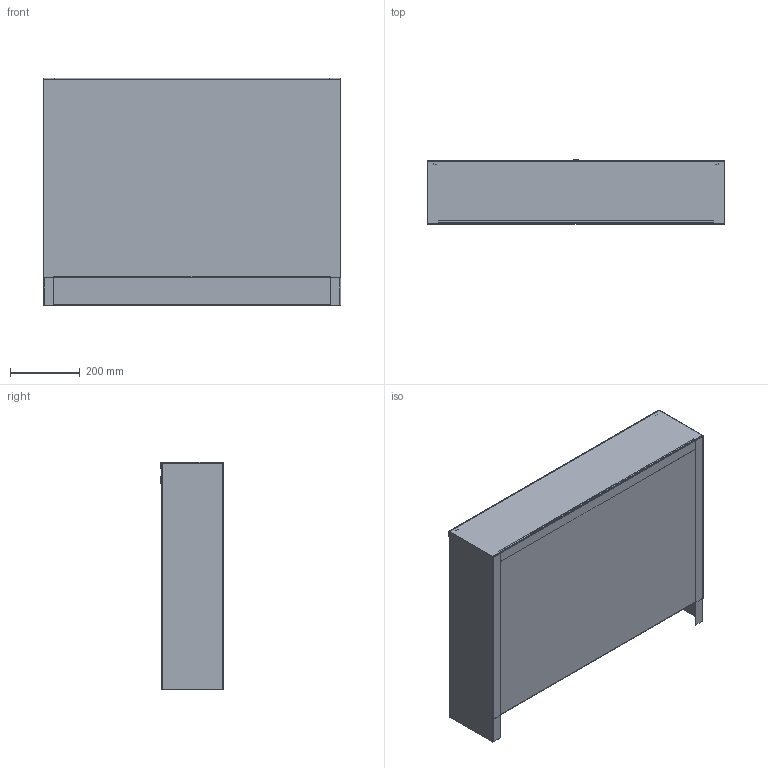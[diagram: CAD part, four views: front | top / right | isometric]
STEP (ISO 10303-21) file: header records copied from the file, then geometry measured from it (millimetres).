
FILE_DESCRIPTION(('TFLEX Exchange Step'),'2;1');
FILE_NAME('Manifold cabinet VTc.541.U.04 Valtec.stp', '2023-10-11T14:29:09+03:00',('denis'),('Unknown organisation'),'TFLEX Exchange 2023.0','T-FLEX CAD','Unknown authorisation');
FILE_SCHEMA( ('AUTOMOTIVE_DESIGN { 1 0 10303 214 1 1 1 1 }') );
Length unit declared in the file: millimetre
Products named in the file (1): Nodes
Bounding box: 850 x 182.5 x 650 mm (x, y, z)
Volume: 1472547 mm3; surface area: 3053312.9 mm2
Topology: 5 solids, 6 shells, 315 faces, 842 edges, 529 vertices
Faces by surface type: plane 205, cylinder 79, cone 23, bspline 6, torus 2
Full cylindrical faces by diameter (mm): 10 x1, 12 x1, 16 x1, 20 x2
Entity records: 11497 total; most frequent: CARTESIAN_POINT 3648, ORIENTED_EDGE 1684, DIRECTION 1550, EDGE_CURVE 842, VECTOR 574, LINE 574, VERTEX_POINT 529, AXIS2_PLACEMENT_3D 488
